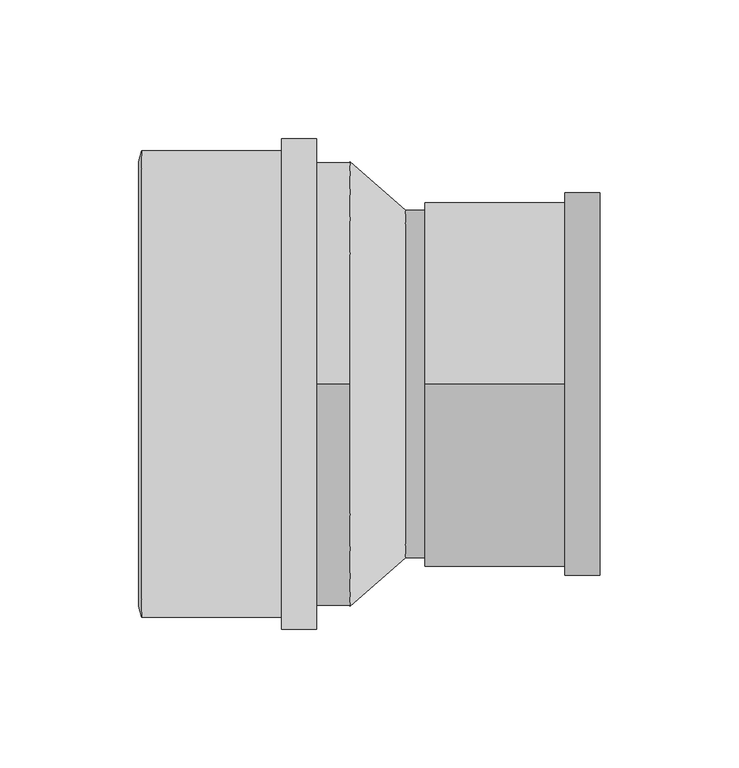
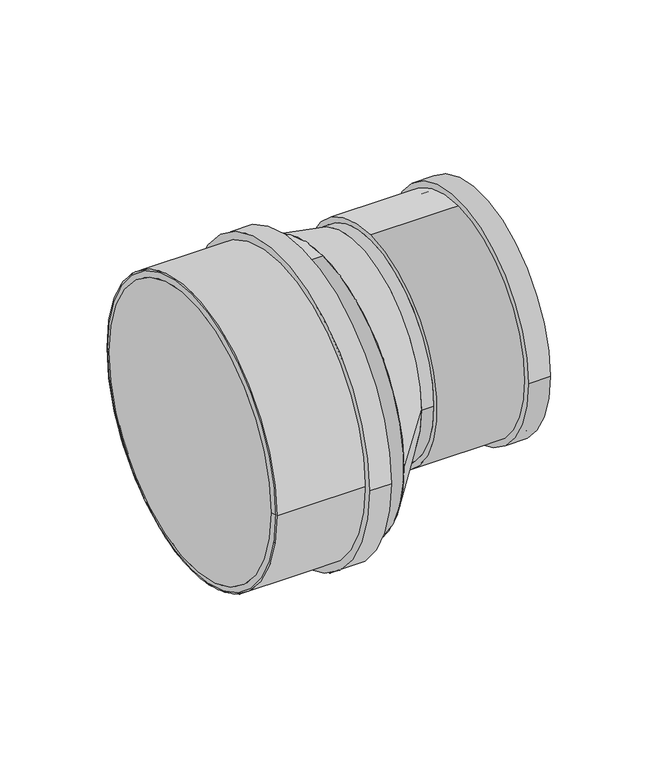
"""IFC4 building model written with IfcOpenShell, lengths in millimetres: pipe fitting geometry, Superdrain HTR-Reducer : Superdrain HTR-Reducer."""

from ifc_helpers import new_model, si_unit, point, frame, frame_2d, origin, origin_2d, place, context, project, spatial, polyline, circle_curve, trimmed, segment, composite_curve, outline, extrude, source, transform, mapped, element, save
from ifc_brep_helpers import plane_surface, revolved_surface, spline_surface, advanced_brep


def pipe_fitting_1bd3c4db(model_context):
    return source(origin(), model_context, "Body", "SolidModel", [
        extrude(outline(composite_curve([segment(trimmed(circle_curve(frame_2d((0.0, 0.1450234)), 84.0), [point((84.0, 0.1450234))], [point((-84.0, 0.1450234))], False, "CARTESIAN"), True, "CONTINUOUS"), segment(trimmed(circle_curve(frame_2d((0.0, 0.1450234)), 84.0), [point((-84.0, 0.1450234))], [point((84.0, 0.1450234))], False, "CARTESIAN"), True, "CONTINUOUS")], self_intersect=False), holes=[composite_curve([segment(trimmed(circle_curve(frame_2d((0.0, 0.1450234)), 80.0), [point((80.0, 0.1450234))], [point((-80.0, 0.1450234))], True, "CARTESIAN"), True, "CONTINUOUS"), segment(trimmed(circle_curve(frame_2d((0.0, 0.1450234)), 80.0), [point((-80.0, 0.1450234))], [point((80.0, 0.1450234))], True, "CARTESIAN"), True, "CONTINUOUS")], self_intersect=False)]), frame((-75.0, 0.0, 0.0), z_axis=(1.0, 0.0, 0.0), x_axis=(0.0, 1.0, 0.0)), (0.0, 0.0, 1.0), 63.0),
        extrude(outline(composite_curve([segment(trimmed(circle_curve(frame_2d((0.0, 0.1450234)), 88.2), [point((88.2, 0.1450234))], [point((-88.2, 0.1450234))], False, "CARTESIAN"), True, "CONTINUOUS"), segment(trimmed(circle_curve(frame_2d((0.0, 0.1450234)), 88.2), [point((-88.2, 0.1450234))], [point((88.2, 0.1450234))], False, "CARTESIAN"), True, "CONTINUOUS")], self_intersect=False), holes=[composite_curve([segment(trimmed(circle_curve(frame_2d((0.0, 0.1450234)), 80.0), [point((80.0, 0.1450234))], [point((-80.0, 0.1450234))], True, "CARTESIAN"), True, "CONTINUOUS"), segment(trimmed(circle_curve(frame_2d((0.0, 0.1450234)), 80.0), [point((-80.0, 0.1450234))], [point((80.0, 0.1450234))], True, "CARTESIAN"), True, "CONTINUOUS")], self_intersect=False)]), frame((-24.6, 0.0, 0.0), z_axis=(1.0, 0.0, 0.0), x_axis=(0.0, 1.0, 0.0)), (0.0, 0.0, 1.0), 12.6),
        advanced_brep(
        [(-76.0, 80.0, 0.1450234), (-76.0, -80.0, 0.1450234), (-75.0, 84.0, 0.1450234), (-75.0, -84.0, 0.1450234)],
        [
            (0, 1, circle_curve(frame((-76.0, 0.0, 0.1450234), z_axis=(-1.0, 0.0, 0.0), x_axis=(0.0, 1.0000000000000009, 0.0)), 80.0)),
            (1, 0, circle_curve(frame((-76.0, 0.0, 0.1450234), z_axis=(-1.0, 0.0, 0.0), x_axis=(0.0, -1.0000000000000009, 0.0)), 80.0)),
            (2, 3, circle_curve(frame((-75.0, 0.0, 0.1450234), z_axis=(1.0, 0.0, 0.0), x_axis=(0.0, -1.0000000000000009, 0.0)), 84.0)),
            (3, 2, circle_curve(frame((-75.0, 0.0, 0.1450234), z_axis=(1.0, 0.0, 0.0), x_axis=(0.0, 1.0000000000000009, 0.0)), 84.0)),
            (3, 1),
            (0, 2),
        ],
        [
            plane_surface(frame((-76.0, 0.0, 0.1450234), z_axis=(-1.0, 0.0, 0.0), x_axis=(0.0, 0.0, -1.0))),
            plane_surface(frame((-75.0, 0.0, 0.1450234), z_axis=(1.0, 0.0, 0.0), x_axis=(0.0, 0.0, -1.0))),
            revolved_surface(polyline([(-76.0, 79.99999999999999, 0.1450234), (-75.0, 84.0, 0.1450234)]), (-96.0, 0.0, 0.1450234), (1.0000000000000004, 0.0, 0.0)),
            revolved_surface(polyline([(-76.0, -79.99999999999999, 0.1450234), (-75.0, -84.0, 0.1450234)]), (-96.0, 0.0, 0.1450234), (1.0000000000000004, 0.0, 0.0)),
        ],
        [
            (0, [[1, 2]]),
            (1, [[3, 4]]),
            (2, [[-4, 5, -1, 6]]),
            (3, [[-3, -6, -2, -5]]),
        ],
    ),
        advanced_brep(
        [(20.0, -62.5, 17.5), (20.0, 62.5, 17.5), (0.0, -80.0, 0.0), (0.0, 80.0, 0.0)],
        [
            (0, 1, circle_curve(frame((20.0, 0.0, 17.5), z_axis=(1.0, 0.0, 0.0), x_axis=(0.0, 1.0, 0.0)), 62.5)),
            (1, 0, circle_curve(frame((20.0, 0.0, 17.5), z_axis=(1.0, 0.0, 0.0), x_axis=(0.0, 1.0, 0.0)), 62.5)),
            (2, 3, circle_curve(frame((0.0, 0.0, 0.0), z_axis=(-1.0, 0.0, 0.0), x_axis=(0.0, 1.0, 0.0)), 80.0)),
            (3, 2, circle_curve(frame((0.0, 0.0, 0.0), z_axis=(-1.0, 0.0, 0.0), x_axis=(0.0, 1.0, 0.0)), 80.0)),
            (3, 1),
            (0, 2),
        ],
        [
            plane_surface(frame((20.0, 0.0, 17.5), z_axis=(1.0, 0.0, 0.0), x_axis=(0.0, 0.0, -1.0))),
            plane_surface(frame((0.0, 0.0, 0.0), z_axis=(-1.0, 0.0, 0.0), x_axis=(0.0, 0.0, -1.0))),
            spline_surface(2, 1, [[(0.0, -80.0, 0.0), (20.0, -62.5, 17.5)], [(0.0, -80.0, -80.0), (20.0, -62.5, -45.0)], [(0.0, 0.0, -80.0), (20.0, 0.0, -45.0)], [(0.0, 80.0, -80.0), (20.0, 62.5, -45.0)], [(0.0, 80.0, 0.0), (20.0, 62.5, 17.5)]], [3, 2, 3], [2, 2], [0.0, 1.0, 2.0], [0.0, 1.0], weights=[[1.0, 1.0], [0.7071067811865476, 0.7071067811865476], [1.0, 1.0], [0.7071067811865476, 0.7071067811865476], [1.0, 1.0]]),
            spline_surface(2, 1, [[(0.0, 80.0, 0.0), (20.0, 62.5, 17.5)], [(0.0, 80.0, 80.0), (20.0, 62.5, 80.0)], [(0.0, 0.0, 80.0), (20.0, 0.0, 80.0)], [(0.0, -80.0, 80.0), (20.0, -62.5, 80.0)], [(0.0, -80.0, 0.0), (20.0, -62.5, 17.5)]], [3, 2, 3], [2, 2], [0.0, 1.0, 2.0], [0.0, 1.0], weights=[[1.0, 1.0], [0.7071067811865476, 0.7071067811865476], [1.0, 1.0], [0.7071067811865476, 0.7071067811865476], [1.0, 1.0]]),
        ],
        [
            (0, [[1, 2]]),
            (1, [[3, 4]]),
            (2, [[-4, 5, -1, 6]]),
            (3, [[-3, -6, -2, -5]]),
        ],
    ),
        extrude(outline(composite_curve([segment(trimmed(circle_curve(frame_2d((0.0, 17.5)), 62.5), [point((-62.5, 17.5))], [point((62.5, 17.5))], False, "CARTESIAN"), True, "CONTINUOUS"), segment(trimmed(circle_curve(frame_2d((0.0, 17.5)), 62.5), [point((62.5, 17.5))], [point((-62.5, 17.5))], False, "CARTESIAN"), True, "CONTINUOUS")], self_intersect=False)), frame((20.0, 0.0, 0.0), z_axis=(1.0, 0.0, 0.0), x_axis=(0.0, 1.0, 0.0)), (0.0, 0.0, 1.0), 7.0),
        extrude(outline(composite_curve([segment(trimmed(circle_curve(frame_2d((0.0, 17.5)), 68.90625), [point((-68.90625, 17.5))], [point((68.90625, 17.5))], False, "CARTESIAN"), True, "CONTINUOUS"), segment(trimmed(circle_curve(frame_2d((0.0, 17.5)), 68.90625), [point((68.90625, 17.5))], [point((-68.90625, 17.5))], False, "CARTESIAN"), True, "CONTINUOUS")], self_intersect=False), holes=[composite_curve([segment(trimmed(circle_curve(frame_2d((0.0, 17.5)), 62.5), [point((62.5, 17.5))], [point((-62.5, 17.5))], True, "CARTESIAN"), True, "CONTINUOUS"), segment(trimmed(circle_curve(frame_2d((0.0, 17.5)), 62.5), [point((-62.5, 17.5))], [point((62.5, 17.5))], True, "CARTESIAN"), True, "CONTINUOUS")], self_intersect=False)]), frame((77.4, 0.0, 0.0), z_axis=(1.0, 0.0, 0.0), x_axis=(0.0, 1.0, 0.0)), (0.0, 0.0, 1.0), 12.6),
        extrude(outline(composite_curve([segment(trimmed(circle_curve(frame_2d((0.0, 17.5)), 65.625), [point((0.0, 83.125))], [point((0.0, -48.125))], False, "CARTESIAN"), True, "CONTINUOUS"), segment(trimmed(circle_curve(frame_2d((0.0, 17.5)), 65.625), [point((0.0, -48.125))], [point((0.0, 83.125))], False, "CARTESIAN"), True, "CONTINUOUS")], self_intersect=False), holes=[composite_curve([segment(trimmed(circle_curve(frame_2d((0.0, 17.5)), 62.5), [point((62.5, 17.5))], [point((-62.5, 17.5))], True, "CARTESIAN"), True, "CONTINUOUS"), segment(trimmed(circle_curve(frame_2d((0.0, 17.5)), 62.5), [point((-62.5, 17.5))], [point((62.5, 17.5))], True, "CARTESIAN"), True, "CONTINUOUS")], self_intersect=False)]), frame((27.0, 0.0, 0.0), z_axis=(1.0, 0.0, 0.0), x_axis=(0.0, 1.0, 0.0)), (0.0, 0.0, 1.0), 63.0),
        extrude(outline(composite_curve([segment(trimmed(circle_curve(origin_2d(), 80.0), [point((0.0, 80.0))], [point((0.0, -80.0))], False, "CARTESIAN"), True, "CONTINUOUS"), segment(trimmed(circle_curve(origin_2d(), 80.0), [point((0.0, -80.0))], [point((0.0, 80.0))], False, "CARTESIAN"), True, "CONTINUOUS")], self_intersect=False)), frame((-75.0, 0.0, 0.0), z_axis=(1.0, 0.0, 0.0), x_axis=(0.0, 1.0, 0.0)), (0.0, 0.0, 1.0), 75.0),
    ])


if __name__ == "__main__":
    model = new_model("IFC4")
    model_context = context("Model", 3, world=origin())
    ifc_project = project(units=[si_unit("LENGTHUNIT", "METRE", prefix="MILLI")], contexts=[model_context])
    site = spatial("IfcSite", under=ifc_project)
    building = spatial("IfcBuilding", under=site)
    placement = place(None, origin())
    pipe_fitting_shape = pipe_fitting_1bd3c4db(model_context)
    element("IfcPipeFitting", 1, ObjectType="Superdrain HTR-Reducer : Superdrain HTR-Reducer", at=placement, inside=building, context=model_context, shape_type="MappedRepresentation", body=[
        mapped(pipe_fitting_shape, transform((0.0, 0.0, 0.0), x_axis=(1.0, 0.0, 0.0), y_axis=(0.0, 1.0, 0.0), z_axis=(0.0, 0.0, 1.0))),
    ])
    save(model, "model.ifc")
